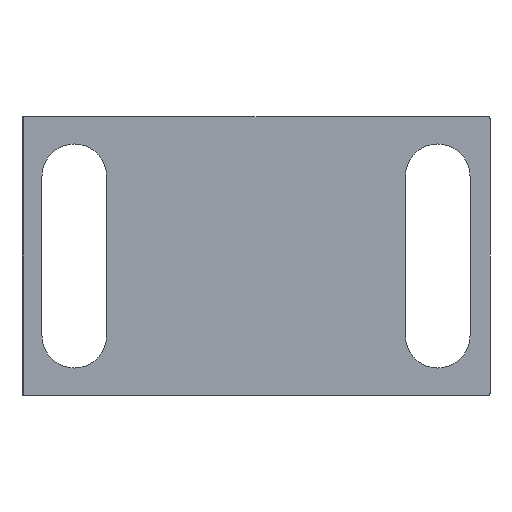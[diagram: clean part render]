
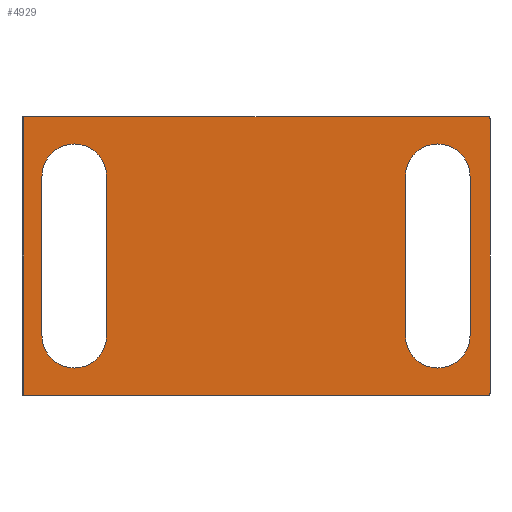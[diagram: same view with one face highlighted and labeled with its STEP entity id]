
A CAD part, front view. The second image highlights one B-rep face of the part: STEP entity #4929.
In plain terms, the highlighted planar face has unit normal (0, -1, 0).
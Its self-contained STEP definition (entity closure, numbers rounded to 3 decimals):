
#864 = FACE_OUTER_BOUND ( 'NONE', #2806, .T. ) ;
#868 = CIRCLE ( 'NONE', #1855, 0.2 ) ;
#904 = VECTOR ( 'NONE', #6682, 1000. ) ;
#908 = LINE ( 'NONE', #6683, #904 ) ;
#932 = FACE_BOUND ( 'NONE', #2782, .T. ) ;
#937 = VECTOR ( 'NONE', #6699, 1000. ) ;
#938 = LINE ( 'NONE', #6700, #937 ) ;
#973 = VECTOR ( 'NONE', #6716, 1000. ) ;
#974 = LINE ( 'NONE', #6717, #973 ) ;
#990 = CIRCLE ( 'NONE', #1907, 3.25 ) ;
#1001 = FACE_BOUND ( 'NONE', #2886, .T. ) ;
#1032 = CIRCLE ( 'NONE', #1811, 3.25 ) ;
#1052 = VECTOR ( 'NONE', #6723, 1000. ) ;
#1091 = VECTOR ( 'NONE', #6899, 1000. ) ;
#1093 = LINE ( 'NONE', #6743, #1091 ) ;
#1104 = CIRCLE ( 'NONE', #1915, 0.2 ) ;
#1114 = LINE ( 'NONE', #6724, #1052 ) ;
#1201 = LINE ( 'NONE', #2579, #1630 ) ;
#1211 = CIRCLE ( 'NONE', #1891, 3.25 ) ;
#1230 = VECTOR ( 'NONE', #6577, 1000. ) ;
#1231 = LINE ( 'NONE', #6348, #1230 ) ;
#1305 = CIRCLE ( 'NONE', #1892, 3.25 ) ;
#1363 = CIRCLE ( 'NONE', #1930, 3.25 ) ;
#1435 = CIRCLE ( 'NONE', #2201, 3.25 ) ;
#1619 = LINE ( 'NONE', #2611, #1620 ) ;
#1620 = VECTOR ( 'NONE', #2608, 1000. ) ;
#1630 = VECTOR ( 'NONE', #2578, 1000. ) ;
#1753 = EDGE_CURVE ( 'NONE', #6596, #6779, #1363, .T. ) ;
#1763 = EDGE_CURVE ( 'NONE', #6756, #6939, #1305, .T. ) ;
#1787 = EDGE_CURVE ( 'NONE', #6760, #6749, #1231, .T. ) ;
#1788 = EDGE_CURVE ( 'NONE', #6764, #6941, #1211, .T. ) ;
#1811 = AXIS2_PLACEMENT_3D ( 'NONE', #3456, #3289, #3238 ) ;
#1839 = EDGE_CURVE ( 'NONE', #6755, #6439, #1104, .T. ) ;
#1845 = EDGE_CURVE ( 'NONE', #6941, #6596, #1093, .T. ) ;
#1854 = EDGE_CURVE ( 'NONE', #6957, #6572, #990, .T. ) ;
#1855 = AXIS2_PLACEMENT_3D ( 'NONE', #6670, #6668, #6667 ) ;
#1857 = EDGE_CURVE ( 'NONE', #6771, #6764, #1114, .T. ) ;
#1861 = EDGE_CURVE ( 'NONE', #6760, #6501, #974, .T. ) ;
#1877 = EDGE_CURVE ( 'NONE', #6939, #6957, #938, .T. ) ;
#1891 = AXIS2_PLACEMENT_3D ( 'NONE', #6346, #6355, #6597 ) ;
#1892 = AXIS2_PLACEMENT_3D ( 'NONE', #6419, #6445, #6408 ) ;
#1896 = EDGE_CURVE ( 'NONE', #6929, #6756, #908, .T. ) ;
#1907 = AXIS2_PLACEMENT_3D ( 'NONE', #6733, #6727, #6726 ) ;
#1911 = EDGE_CURVE ( 'NONE', #6935, #6749, #868, .T. ) ;
#1915 = AXIS2_PLACEMENT_3D ( 'NONE', #6953, #6350, #6354 ) ;
#1930 = AXIS2_PLACEMENT_3D ( 'NONE', #6808, #6442, #6963 ) ;
#2134 = AXIS2_PLACEMENT_3D ( 'NONE', #5589, #5894, #5621 ) ;
#2201 = AXIS2_PLACEMENT_3D ( 'NONE', #3477, #3435, #3428 ) ;
#2578 = DIRECTION ( 'NONE',  ( 0., 0., -1. ) ) ;
#2579 = CARTESIAN_POINT ( 'NONE',  ( 23.5, 0., -14. ) ) ;
#2608 = DIRECTION ( 'NONE',  ( -1., 0., 0. ) ) ;
#2611 = CARTESIAN_POINT ( 'NONE',  ( -23.5, 0., -14. ) ) ;
#2782 = EDGE_LOOP ( 'NONE', ( #3100, #4524, #2995, #3108, #4459 ) ) ;
#2806 = EDGE_LOOP ( 'NONE', ( #4410, #3451, #3852, #4418, #4469, #4419 ) ) ;
#2886 = EDGE_LOOP ( 'NONE', ( #3206, #2993, #3455, #3092, #4483 ) ) ;
#2993 = ORIENTED_EDGE ( 'NONE', *, *, #1788, .T. ) ;
#2995 = ORIENTED_EDGE ( 'NONE', *, *, #1877, .T. ) ;
#3092 = ORIENTED_EDGE ( 'NONE', *, *, #1753, .T. ) ;
#3100 = ORIENTED_EDGE ( 'NONE', *, *, #1896, .T. ) ;
#3108 = ORIENTED_EDGE ( 'NONE', *, *, #1854, .T. ) ;
#3206 = ORIENTED_EDGE ( 'NONE', *, *, #1857, .T. ) ;
#3238 = DIRECTION ( 'NONE',  ( 0., 0., 1. ) ) ;
#3289 = DIRECTION ( 'NONE',  ( 0., 1., 0. ) ) ;
#3428 = DIRECTION ( 'NONE',  ( 0., 0., 1. ) ) ;
#3435 = DIRECTION ( 'NONE',  ( 0., 1., 0. ) ) ;
#3451 = ORIENTED_EDGE ( 'NONE', *, *, #1861, .T. ) ;
#3455 = ORIENTED_EDGE ( 'NONE', *, *, #1845, .T. ) ;
#3456 = CARTESIAN_POINT ( 'NONE',  ( -18.25, 0., 8. ) ) ;
#3477 = CARTESIAN_POINT ( 'NONE',  ( 18.25, 0., 8. ) ) ;
#3852 = ORIENTED_EDGE ( 'NONE', *, *, #4770, .F. ) ;
#4410 = ORIENTED_EDGE ( 'NONE', *, *, #1787, .F. ) ;
#4418 = ORIENTED_EDGE ( 'NONE', *, *, #1839, .T. ) ;
#4419 = ORIENTED_EDGE ( 'NONE', *, *, #1911, .T. ) ;
#4459 = ORIENTED_EDGE ( 'NONE', *, *, #4759, .T. ) ;
#4469 = ORIENTED_EDGE ( 'NONE', *, *, #4773, .F. ) ;
#4483 = ORIENTED_EDGE ( 'NONE', *, *, #4755, .T. ) ;
#4524 = ORIENTED_EDGE ( 'NONE', *, *, #1763, .T. ) ;
#4755 = EDGE_CURVE ( 'NONE', #6779, #6771, #1435, .T. ) ;
#4759 = EDGE_CURVE ( 'NONE', #6572, #6929, #1032, .T. ) ;
#4770 = EDGE_CURVE ( 'NONE', #6755, #6501, #1619, .T. ) ;
#4773 = EDGE_CURVE ( 'NONE', #6935, #6439, #1201, .T. ) ;
#4929 = ADVANCED_FACE ( 'NONE', ( #1001, #932, #864 ), #5609, .F. ) ;
#5037 = CARTESIAN_POINT ( 'NONE',  ( -21.5, 0., 8. ) ) ;
#5118 = CARTESIAN_POINT ( 'NONE',  ( 15., 0., -8. ) ) ;
#5364 = CARTESIAN_POINT ( 'NONE',  ( -15., 0., 8. ) ) ;
#5375 = CARTESIAN_POINT ( 'NONE',  ( 23.5, 0., 13.8 ) ) ;
#5411 = CARTESIAN_POINT ( 'NONE',  ( 15., 0., 8. ) ) ;
#5478 = CARTESIAN_POINT ( 'NONE',  ( -18.25, 0., 11.25 ) ) ;
#5535 = CARTESIAN_POINT ( 'NONE',  ( -21.5, 0., -8. ) ) ;
#5583 = CARTESIAN_POINT ( 'NONE',  ( 23.5, 0., -13.8 ) ) ;
#5589 = CARTESIAN_POINT ( 'NONE',  ( 23.5, 0., 14. ) ) ;
#5609 = PLANE ( 'NONE',  #2134 ) ;
#5621 = DIRECTION ( 'NONE',  ( 0., 0., 1. ) ) ;
#5670 = CARTESIAN_POINT ( 'NONE',  ( 21.5, 0., -8. ) ) ;
#5755 = CARTESIAN_POINT ( 'NONE',  ( -23.3, 0., 14. ) ) ;
#5894 = DIRECTION ( 'NONE',  ( 0., 1., 0. ) ) ;
#6007 = CARTESIAN_POINT ( 'NONE',  ( 21.5, 0., 8. ) ) ;
#6044 = CARTESIAN_POINT ( 'NONE',  ( -15., 0., -8. ) ) ;
#6055 = CARTESIAN_POINT ( 'NONE',  ( 23.3, 0., 14. ) ) ;
#6068 = CARTESIAN_POINT ( 'NONE',  ( 23.3, 0., -14. ) ) ;
#6069 = CARTESIAN_POINT ( 'NONE',  ( -23.3, 0., -14. ) ) ;
#6101 = CARTESIAN_POINT ( 'NONE',  ( 18.25, 0., 11.25 ) ) ;
#6346 = CARTESIAN_POINT ( 'NONE',  ( 18.25, 0., -8. ) ) ;
#6348 = CARTESIAN_POINT ( 'NONE',  ( -23.5, 0., 14. ) ) ;
#6350 = DIRECTION ( 'NONE',  ( 0., -1., 0. ) ) ;
#6354 = DIRECTION ( 'NONE',  ( 0., 0., 1. ) ) ;
#6355 = DIRECTION ( 'NONE',  ( 0., 1., 0. ) ) ;
#6408 = DIRECTION ( 'NONE',  ( 0., 0., 1. ) ) ;
#6419 = CARTESIAN_POINT ( 'NONE',  ( -18.25, 0., -8. ) ) ;
#6439 = VERTEX_POINT ( 'NONE', #5583 ) ;
#6442 = DIRECTION ( 'NONE',  ( 0., 1., 0. ) ) ;
#6445 = DIRECTION ( 'NONE',  ( 0., 1., 0. ) ) ;
#6501 = VERTEX_POINT ( 'NONE', #6069 ) ;
#6572 = VERTEX_POINT ( 'NONE', #5478 ) ;
#6577 = DIRECTION ( 'NONE',  ( 1., 0., 0. ) ) ;
#6596 = VERTEX_POINT ( 'NONE', #5411 ) ;
#6597 = DIRECTION ( 'NONE',  ( 0., 0., 1. ) ) ;
#6667 = DIRECTION ( 'NONE',  ( 0., 0., 1. ) ) ;
#6668 = DIRECTION ( 'NONE',  ( 0., -1., 0. ) ) ;
#6670 = CARTESIAN_POINT ( 'NONE',  ( 23.3, 0., 13.8 ) ) ;
#6682 = DIRECTION ( 'NONE',  ( 0., 0., -1. ) ) ;
#6683 = CARTESIAN_POINT ( 'NONE',  ( -15., 0., -8. ) ) ;
#6699 = DIRECTION ( 'NONE',  ( 0., 0., 1. ) ) ;
#6700 = CARTESIAN_POINT ( 'NONE',  ( -21.5, 0., -8. ) ) ;
#6716 = DIRECTION ( 'NONE',  ( 0., 0., -1. ) ) ;
#6717 = CARTESIAN_POINT ( 'NONE',  ( -23.3, 0., 14. ) ) ;
#6723 = DIRECTION ( 'NONE',  ( 0., 0., -1. ) ) ;
#6724 = CARTESIAN_POINT ( 'NONE',  ( 21.5, 0., -8. ) ) ;
#6726 = DIRECTION ( 'NONE',  ( 0., 0., 1. ) ) ;
#6727 = DIRECTION ( 'NONE',  ( 0., 1., 0. ) ) ;
#6733 = CARTESIAN_POINT ( 'NONE',  ( -18.25, 0., 8. ) ) ;
#6743 = CARTESIAN_POINT ( 'NONE',  ( 15., 0., -8. ) ) ;
#6749 = VERTEX_POINT ( 'NONE', #6055 ) ;
#6755 = VERTEX_POINT ( 'NONE', #6068 ) ;
#6756 = VERTEX_POINT ( 'NONE', #6044 ) ;
#6760 = VERTEX_POINT ( 'NONE', #5755 ) ;
#6764 = VERTEX_POINT ( 'NONE', #5670 ) ;
#6771 = VERTEX_POINT ( 'NONE', #6007 ) ;
#6779 = VERTEX_POINT ( 'NONE', #6101 ) ;
#6808 = CARTESIAN_POINT ( 'NONE',  ( 18.25, 0., 8. ) ) ;
#6899 = DIRECTION ( 'NONE',  ( 0., 0., 1. ) ) ;
#6929 = VERTEX_POINT ( 'NONE', #5364 ) ;
#6935 = VERTEX_POINT ( 'NONE', #5375 ) ;
#6939 = VERTEX_POINT ( 'NONE', #5535 ) ;
#6941 = VERTEX_POINT ( 'NONE', #5118 ) ;
#6953 = CARTESIAN_POINT ( 'NONE',  ( 23.3, 0., -13.8 ) ) ;
#6957 = VERTEX_POINT ( 'NONE', #5037 ) ;
#6963 = DIRECTION ( 'NONE',  ( 0., 0., 1. ) ) ;
